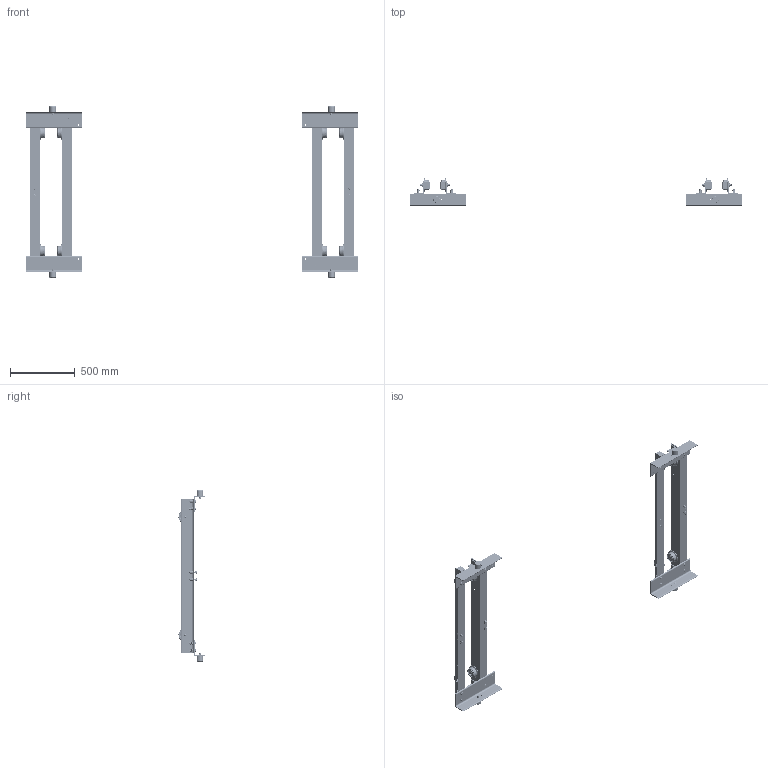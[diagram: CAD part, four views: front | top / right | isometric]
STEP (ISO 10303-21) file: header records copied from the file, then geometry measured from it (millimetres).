
FILE_DESCRIPTION (( 'STEP AP214' ), '1' );
FILE_NAME ('HPC505 Bottom.STEP', '2026-08-11T19:32:23', ( '' ), ( '' ), 'SwSTEP 2.0', 'SolidWorks 2026', '' );
FILE_SCHEMA (( 'AUTOMOTIVE_DESIGN' ));
Length unit declared in the file: millimetre
Products named in the file (30): 52391-02; HPC505 Bottom; 52391; A500-308-005_17.000 INCH; _6203-2RSL_PART2; 92000111; _6203-2RSL_PART5; 51161X; 9004603; 9003903_9003903; stud; 9012515_9012515; 9005313_9005313; 9200011; 62676_S15X42.9; _6203-2RSL_PART1; 9003905_HJNUT 0.5000-13-D-C; _6203-2RSL_PART4; HPC505 Bottom HALF ASM_S15X42.9; 9093374_9093374; A112-112-004_2.500 Inches; 6203-2RS; 62675_S15X42.9; _6203-2RSL_PART3; 9043514; 9005209_9005209; A400-300-004_47.000 Inches; 9093433_9093433; 52391-01
Assembly tree (111 placements, depth 5):
  HPC505 Bottom
    HPC505 Bottom HALF ASM_S15X42.9  x2
      52391
        52391-01
          A400-300-004_47.000 Inches
        52391-02  x2
          A112-112-004_2.500 Inches
      9200011
        51161X
        92000111
        6203-2RS
          _6203-2RSL_PART1
          _6203-2RSL_PART2
          _6203-2RSL_PART3
          _6203-2RSL_PART4
          _6203-2RSL_PART5  x8
        stud
      9005209_9005209
      9005313_9005313
      9003905_HJNUT 0.5000-13-D-C
      62675_S15X42.9
        A500-308-005_17.000 INCH
      9004603
      9003903_9003903
      9012515_9012515
      9093374_9093374
      9093433_9093433
      9043514
      62676_S15X42.9
        A500-308-005_17.000 INCH
Bounding box: 2571.5 x 209.51 x 1327.16 mm (x, y, z)
Volume: 9867720.7 mm3; surface area: 3133345.8 mm2
Topology: 292 solids, 292 shells, 5028 faces, 11040 edges, 6448 vertices
Faces by surface type: cone 1600, plane 1436, cylinder 1368, bspline 368, torus 256
Entity records: 21105 total; most frequent: CARTESIAN_POINT 8803, DIRECTION 2413, ORIENTED_EDGE 2056, EDGE_CURVE 1028, AXIS2_PLACEMENT_3D 1020, VERTEX_POINT 628, EDGE_LOOP 534, CIRCLE 476
